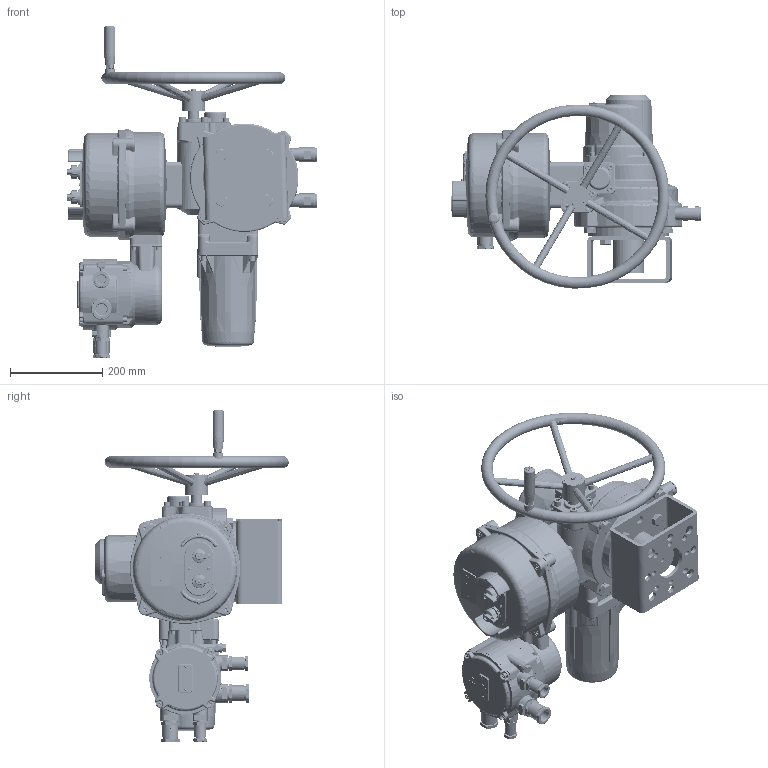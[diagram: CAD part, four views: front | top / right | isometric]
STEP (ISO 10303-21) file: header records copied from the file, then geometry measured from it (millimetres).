
FILE_DESCRIPTION(('STEP AP203'), '1');
FILE_NAME('ÃÇ-ÎÔÂ-ÊÑ òèïîðàçìåð 8022', '', ('UNSPECIFIED'), ('UNSPECIFIED'), 'C3D Converter', 'C3D Toolkit', '');
FILE_SCHEMA(('CONFIG_CONTROL_DESIGN'));
Length unit declared in the file: millimetre
Products named in the file (1): ГЗ-ОФВ-КС типоразмер 8022
Bounding box: 543.47 x 419.69 x 720.5 mm (x, y, z)
Volume: 1046658.3 mm3; surface area: 2318052.1 mm2
Topology: 4 solids, 152 shells, 10348 faces, 28175 edges, 18637 vertices
Faces by surface type: plane 5247, bspline 1984, cylinder 1776, cone 715, torus 534, sphere 92
Full cylindrical faces by diameter (mm): 1.5 x1, 2.2 x6, 2.459 x10, 2.675 x9, 3 x11, 3.11 x2, 3.2 x13, 3.242 x13, 3.5 x7, 3.545 x2, 4 x17, 4.134 x9, 4.3 x2, 4.48 x1, 4.5 x1, 4.917 x25, 5 x8, 5.2 x2, 5.3 x1, 5.5 x6, 6 x32, 6.5 x4, 6.647 x13, 7 x23, 8 x17, 8.376 x4, 8.4 x4, 8.9 x1, 9 x13, 9.5 x9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
Entity records: 637011 total; most frequent: CARTESIAN_POINT 316098, ORIENTED_EDGE 53282, DIRECTION 41384, EDGE_CURVE 26690, VERTEX_POINT 18361, AXIS2_PLACEMENT_3D 14956, EDGE_LOOP 12458, FACE_BOUND 11887
